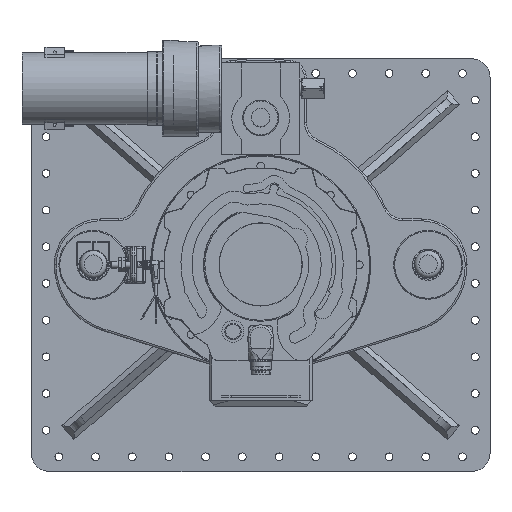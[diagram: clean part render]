
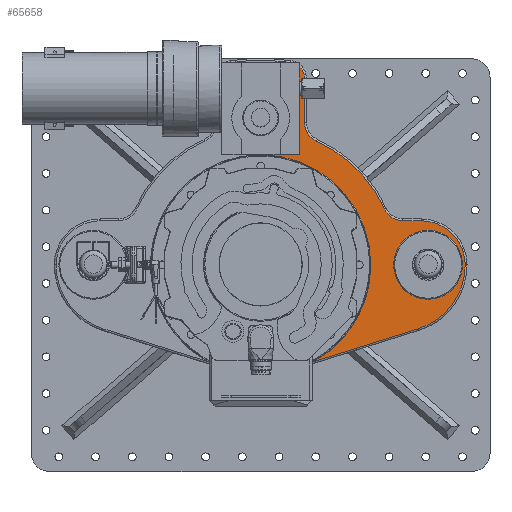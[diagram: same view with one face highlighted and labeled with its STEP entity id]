
A CAD part, top view. The second image highlights one B-rep face of the part: STEP entity #65658.
In plain terms, the highlighted planar face has unit normal (0, 0, 1).
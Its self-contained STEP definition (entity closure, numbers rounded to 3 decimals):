
#3300=FACE_BOUND('',#12060,.T.);
#4748=PLANE('',#72325);
#8087=FACE_OUTER_BOUND('',#12059,.T.);
#12059=EDGE_LOOP('',(#57129,#57130,#57131,#57132,#57133,#57134,#57135,#57136,
#57137,#57138,#57139,#57140,#57141,#57142));
#12060=EDGE_LOOP('',(#57143));
#14526=LINE('',#107495,#19041);
#14528=LINE('',#107519,#19043);
#14531=LINE('',#107566,#19046);
#16530=LINE('',#121756,#21045);
#16531=LINE('',#121758,#21046);
#19041=VECTOR('',#82000,10.);
#19043=VECTOR('',#82030,10.);
#19046=VECTOR('',#82103,10.);
#21045=VECTOR('',#89712,10.);
#21046=VECTOR('',#89713,10.);
#21852=CIRCLE('',#66834,120.);
#21992=CIRCLE('',#67068,120.);
#23210=CIRCLE('',#69339,37.5);
#23302=CIRCLE('',#69466,73.);
#23304=CIRCLE('',#69469,48.);
#23307=CIRCLE('',#69474,22.);
#23310=CIRCLE('',#69478,148.);
#23313=CIRCLE('',#69482,22.);
#23319=CIRCLE('',#69490,18.);
#24649=CIRCLE('',#72326,2.);
#25651=VERTEX_POINT('',#98106);
#25655=VERTEX_POINT('',#98114);
#25657=VERTEX_POINT('',#98118);
#27960=VERTEX_POINT('',#107199);
#28067=VERTEX_POINT('',#107482);
#28068=VERTEX_POINT('',#107484);
#28069=VERTEX_POINT('',#107488);
#28071=VERTEX_POINT('',#107493);
#28073=VERTEX_POINT('',#107499);
#28075=VERTEX_POINT('',#107505);
#28077=VERTEX_POINT('',#107511);
#28079=VERTEX_POINT('',#107517);
#28083=VERTEX_POINT('',#107527);
#30456=VERTEX_POINT('',#121755);
#30457=VERTEX_POINT('',#121757);
#32065=EDGE_CURVE('',#25651,#25657,#21852,.T.);
#32348=EDGE_CURVE('',#25655,#25651,#21992,.T.);
#35464=EDGE_CURVE('',#27960,#27960,#23210,.T.);
#35606=EDGE_CURVE('',#28068,#28067,#23302,.T.);
#35608=EDGE_CURVE('',#28069,#28068,#23304,.T.);
#35610=EDGE_CURVE('',#28071,#28069,#14526,.T.);
#35613=EDGE_CURVE('',#28073,#28071,#23307,.T.);
#35616=EDGE_CURVE('',#28075,#28073,#23310,.T.);
#35619=EDGE_CURVE('',#28077,#28075,#23313,.T.);
#35622=EDGE_CURVE('',#28079,#28077,#14528,.T.);
#35627=EDGE_CURVE('',#28083,#28079,#23319,.T.);
#35647=EDGE_CURVE('',#28067,#25657,#14531,.T.);
#39450=EDGE_CURVE('',#30456,#25655,#16530,.T.);
#39451=EDGE_CURVE('',#28083,#30457,#16531,.T.);
#39452=EDGE_CURVE('',#30457,#30456,#24649,.T.);
#57129=ORIENTED_EDGE('',*,*,#39450,.T.);
#57130=ORIENTED_EDGE('',*,*,#32348,.T.);
#57131=ORIENTED_EDGE('',*,*,#32065,.T.);
#57132=ORIENTED_EDGE('',*,*,#35647,.F.);
#57133=ORIENTED_EDGE('',*,*,#35606,.F.);
#57134=ORIENTED_EDGE('',*,*,#35608,.F.);
#57135=ORIENTED_EDGE('',*,*,#35610,.F.);
#57136=ORIENTED_EDGE('',*,*,#35613,.F.);
#57137=ORIENTED_EDGE('',*,*,#35616,.F.);
#57138=ORIENTED_EDGE('',*,*,#35619,.F.);
#57139=ORIENTED_EDGE('',*,*,#35622,.F.);
#57140=ORIENTED_EDGE('',*,*,#35627,.F.);
#57141=ORIENTED_EDGE('',*,*,#39451,.T.);
#57142=ORIENTED_EDGE('',*,*,#39452,.T.);
#57143=ORIENTED_EDGE('',*,*,#35464,.T.);
#65658=ADVANCED_FACE('',(#8087,#3300),#4748,.T.);
#66834=AXIS2_PLACEMENT_3D('',#98120,#74899,#74900);
#67068=AXIS2_PLACEMENT_3D('',#99095,#75436,#75437);
#69339=AXIS2_PLACEMENT_3D('',#107201,#81684,#81685);
#69466=AXIS2_PLACEMENT_3D('',#107486,#81988,#81989);
#69469=AXIS2_PLACEMENT_3D('',#107490,#81994,#81995);
#69474=AXIS2_PLACEMENT_3D('',#107501,#82006,#82007);
#69478=AXIS2_PLACEMENT_3D('',#107507,#82014,#82015);
#69482=AXIS2_PLACEMENT_3D('',#107513,#82022,#82023);
#69490=AXIS2_PLACEMENT_3D('',#107529,#82040,#82041);
#72325=AXIS2_PLACEMENT_3D('',#121754,#89710,#89711);
#72326=AXIS2_PLACEMENT_3D('',#121759,#89714,#89715);
#74899=DIRECTION('center_axis',(0.,0.,
-1.));
#74900=DIRECTION('ref_axis',(-1.,0.,0.));
#75436=DIRECTION('center_axis',(0.,0.,
-1.));
#75437=DIRECTION('ref_axis',(-1.,0.,0.));
#81684=DIRECTION('center_axis',(0.,0.,
-1.));
#81685=DIRECTION('ref_axis',(0.,1.,0.));
#81988=DIRECTION('center_axis',(0.,0.,
-1.));
#81989=DIRECTION('ref_axis',(0.806,-0.592,0.));
#81994=DIRECTION('center_axis',(0.,0.,
-1.));
#81995=DIRECTION('ref_axis',(0.707,0.707,0.));
#82000=DIRECTION('',(1.,0.,0.));
#82006=DIRECTION('center_axis',(0.,0.,
1.));
#82007=DIRECTION('ref_axis',(-0.542,-0.84,0.));
#82014=DIRECTION('center_axis',(0.,0.,
-1.));
#82015=DIRECTION('ref_axis',(0.707,0.707,0.));
#82022=DIRECTION('center_axis',(0.,0.,
1.));
#82023=DIRECTION('ref_axis',(-0.84,-0.542,0.));
#82030=DIRECTION('',(0.,-1.,0.));
#82040=DIRECTION('center_axis',(0.,0.,
-1.));
#82041=DIRECTION('ref_axis',(0.757,0.653,0.));
#82103=DIRECTION('',(-0.954,-0.3,0.));
#89710=DIRECTION('center_axis',(0.,0.,
1.));
#89711=DIRECTION('ref_axis',(-1.,0.,0.));
#89712=DIRECTION('',(-1.,0.,0.));
#89713=DIRECTION('',(0.,-1.,0.));
#89714=DIRECTION('center_axis',(0.,0.,
-1.));
#89715=DIRECTION('ref_axis',(0.707,-0.707,0.));
#98106=CARTESIAN_POINT('',(120.,0.,201.5));
#98114=CARTESIAN_POINT('',(0.,120.,201.5));
#98118=CARTESIAN_POINT('',(56.212,-106.02,201.5));
#98120=CARTESIAN_POINT('Origin',(0.,0.,
201.5));
#99095=CARTESIAN_POINT('Origin',(0.,0.,
201.5));
#107199=CARTESIAN_POINT('',(182.5,-37.5,201.5));
#107201=CARTESIAN_POINT('Origin',(182.5,0.,201.5));
#107482=CARTESIAN_POINT('',(171.9,-69.638,201.5));
#107484=CARTESIAN_POINT('',(223.,0.,201.5));
#107486=CARTESIAN_POINT('Origin',(150.,0.,
201.5));
#107488=CARTESIAN_POINT('',(175.,48.,201.5));
#107490=CARTESIAN_POINT('Origin',(175.,0.,
201.5));
#107493=CARTESIAN_POINT('',(154.919,48.,201.5));
#107495=CARTESIAN_POINT('',(109.687,48.,201.5));
#107499=CARTESIAN_POINT('',(134.871,60.941,201.5));
#107501=CARTESIAN_POINT('Origin',(154.919,70.,201.5));
#107505=CARTESIAN_POINT('',(60.941,134.871,201.5));
#107507=CARTESIAN_POINT('Origin',(0.,0.,
201.5));
#107511=CARTESIAN_POINT('',(48.,154.919,201.5));
#107513=CARTESIAN_POINT('Origin',(70.,154.919,201.5));
#107517=CARTESIAN_POINT('',(48.,202.793,201.5));
#107519=CARTESIAN_POINT('',(48.,49.819,201.5));
#107527=CARTESIAN_POINT('',(42.5,215.745,201.5));
#107529=CARTESIAN_POINT('Origin',(30.,202.793,201.5));
#107566=CARTESIAN_POINT('',(29.421,-114.445,201.5));
#121754=CARTESIAN_POINT('Origin',(0.,-41.784,
201.5));
#121755=CARTESIAN_POINT('',(40.5,120.,201.5));
#121756=CARTESIAN_POINT('',(-21.25,120.,201.5));
#121757=CARTESIAN_POINT('',(42.5,122.,201.5));
#121758=CARTESIAN_POINT('',(42.5,39.108,201.5));
#121759=CARTESIAN_POINT('Origin',(40.5,122.,201.5));
